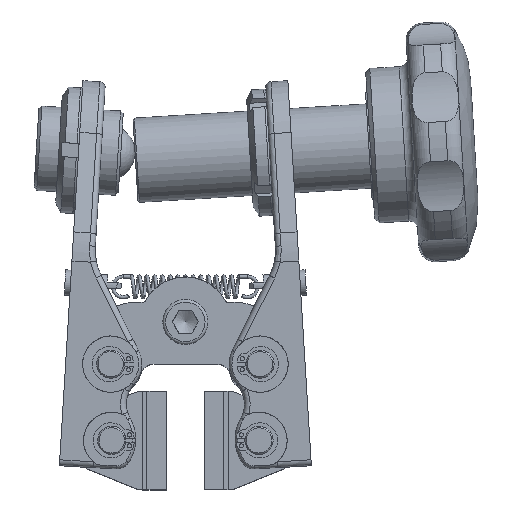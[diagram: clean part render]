
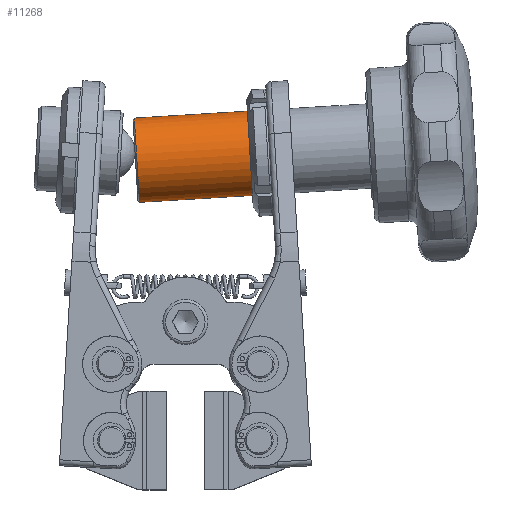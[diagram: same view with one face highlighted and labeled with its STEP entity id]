
A CAD part, top view. The second image highlights one B-rep face of the part: STEP entity #11268.
In plain terms, the highlighted cylindrical face has radius 15 mm (diameter 30 mm), a full revolution.
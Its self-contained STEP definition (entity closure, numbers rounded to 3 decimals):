
#1016=CYLINDRICAL_SURFACE('',#11971,15.);
#1265=FACE_OUTER_BOUND('',#1910,.T.);
#1910=EDGE_LOOP('',(#7977,#7978,#7979,#7980,#7981));
#2647=LINE('',#19188,#3444);
#3444=VECTOR('',#13472,15.);
#4215=CIRCLE('',#11928,15.);
#4235=CIRCLE('',#11972,15.);
#4236=CIRCLE('',#11973,15.);
#4964=VERTEX_POINT('',#18907);
#5023=VERTEX_POINT('',#19187);
#5024=VERTEX_POINT('',#19189);
#6100=EDGE_CURVE('',#4964,#4964,#4215,.T.);
#6181=EDGE_CURVE('',#4964,#5023,#2647,.T.);
#6182=EDGE_CURVE('',#5024,#5023,#4235,.T.);
#6183=EDGE_CURVE('',#5023,#5024,#4236,.T.);
#7977=ORIENTED_EDGE('',*,*,#6100,.T.);
#7978=ORIENTED_EDGE('',*,*,#6181,.T.);
#7979=ORIENTED_EDGE('',*,*,#6182,.F.);
#7980=ORIENTED_EDGE('',*,*,#6183,.F.);
#7981=ORIENTED_EDGE('',*,*,#6181,.F.);
#11268=ADVANCED_FACE('',(#1265),#1016,.T.);
#11928=AXIS2_PLACEMENT_3D('',#18908,#13346,#13347);
#11971=AXIS2_PLACEMENT_3D('',#19186,#13470,#13471);
#11972=AXIS2_PLACEMENT_3D('',#19190,#13473,#13474);
#11973=AXIS2_PLACEMENT_3D('',#19191,#13475,#13476);
#13346=DIRECTION('center_axis',(-0.998,-0.061,
0.));
#13347=DIRECTION('ref_axis',(0.019,-0.314,-0.949));
#13470=DIRECTION('center_axis',(0.998,0.061,0.));
#13471=DIRECTION('ref_axis',(0.019,-0.314,-0.949));
#13472=DIRECTION('',(-0.998,-0.061,0.));
#13473=DIRECTION('center_axis',(-0.998,-0.061,
0.));
#13474=DIRECTION('ref_axis',(-0.019,0.314,0.949));
#13475=DIRECTION('center_axis',(-0.998,-0.061,
0.));
#13476=DIRECTION('ref_axis',(-0.019,0.314,0.949));
#18907=CARTESIAN_POINT('',(22.638,89.626,14.24));
#18908=CARTESIAN_POINT('Origin',(22.925,84.921,0.));
#19186=CARTESIAN_POINT('Origin',(26.219,85.123,0.));
#19187=CARTESIAN_POINT('',(-17.487,87.175,14.24));
#19188=CARTESIAN_POINT('',(25.932,89.827,14.24));
#19189=CARTESIAN_POINT('',(-16.913,77.766,-14.24));
#19190=CARTESIAN_POINT('Origin',(-17.2,82.47,0.));
#19191=CARTESIAN_POINT('Origin',(-17.2,82.47,0.));
